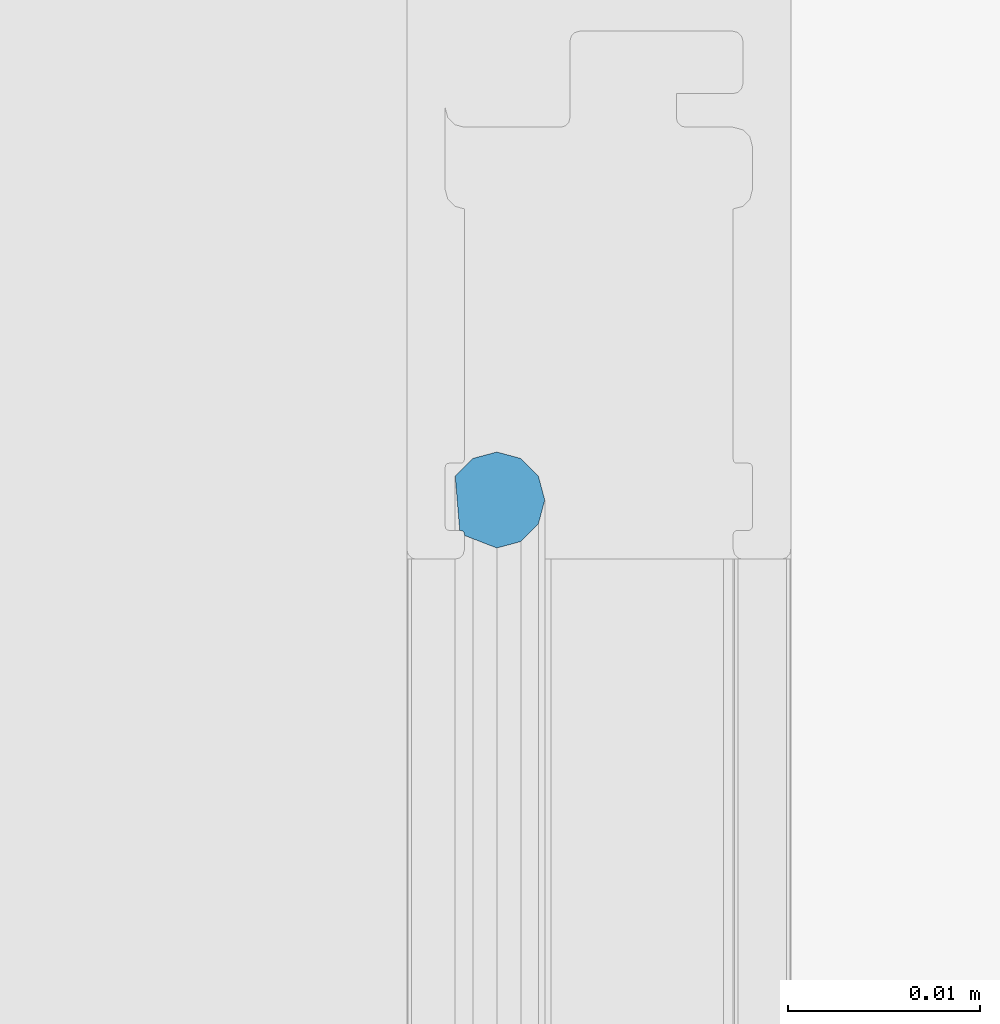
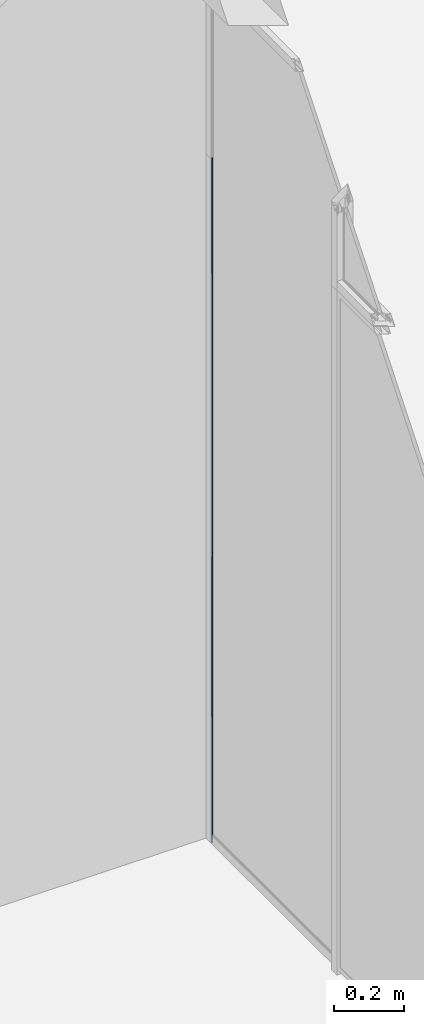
# One storey, part 95 of 387: 1 building element part, 2 elements without a shape of their own.
"""IFC2X3 building model written with IfcOpenShell, lengths in millimetres."""

from ifc_helpers import new_model, entity, si_unit, converted_unit, derived_unit, money_unit, direction, frame, origin_with_axes, place, context, subcontext, project, spatial, faceted_brep, source, transform, mapped, material, type_object, element, aggregate, save


model = new_model("IFC2X3")

# Units and contexts
model_context = context("Model", 3, precision=0.01, world=origin_with_axes(), true_north=direction((0.0, 1.0)))
body_context = subcontext(model_context, "Body", "Model", "MODEL_VIEW")
ifc_project = project(units=[si_unit("LENGTHUNIT", "METRE", prefix="MILLI"), si_unit("AREAUNIT", "SQUARE_METRE"), si_unit("VOLUMEUNIT", "CUBIC_METRE"), converted_unit("PLANEANGLEUNIT", "DEGREE", entity("IfcPlaneAngleMeasure", 0.0174532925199), si_unit("PLANEANGLEUNIT", "RADIAN"), dimensions=[0, 0, 0, 0, 0, 0, 0]), si_unit("SOLIDANGLEUNIT", "STERADIAN"), money_unit("EUR"), converted_unit("TIMEUNIT", "Year", entity("IfcTimeMeasure", 31556926.0), si_unit("TIMEUNIT", "SECOND"), dimensions=[0, 0, 1, 0, 0, 0, 0]), si_unit("MASSUNIT", "GRAM", prefix="KILO"), si_unit("THERMODYNAMICTEMPERATUREUNIT", "DEGREE_CELSIUS"), si_unit("LUMINOUSINTENSITYUNIT", "LUMEN"), si_unit("ENERGYUNIT", "JOULE", prefix="MEGA"), derived_unit("THERMALCONDUCTANCEUNIT", [(si_unit("POWERUNIT", "WATT"), 1), (si_unit("LENGTHUNIT", "METRE"), -1), (si_unit("THERMODYNAMICTEMPERATUREUNIT", "KELVIN"), -1)]), derived_unit("SPECIFICHEATCAPACITYUNIT", [(si_unit("ENERGYUNIT", "JOULE"), 1), (si_unit("MASSUNIT", "GRAM", prefix="KILO"), -1), (si_unit("THERMODYNAMICTEMPERATUREUNIT", "KELVIN"), -1)]), derived_unit("MASSDENSITYUNIT", [(si_unit("MASSUNIT", "GRAM", prefix="KILO"), 1), (si_unit("VOLUMEUNIT", "CUBIC_METRE"), -1)])], contexts=[model_context])

# Site, building, storey
site_placement = place(None, origin_with_axes())
site = spatial("IfcSite", under=ifc_project, at=site_placement, Name="Puškini 31, Narva", CompositionType="ELEMENT")
building_placement = place(site_placement, origin_with_axes())
building = spatial("IfcBuilding", under=site, at=building_placement, Name="Narva Riigigümnaasium", CompositionType="ELEMENT")
storey_placement = place(building_placement, frame((0.0, 0.0, 2640.0), z_axis=(0.0, 0.0, 1.0), x_axis=(1.0, 0.0, 0.0)))
storey = spatial("IfcBuildingStorey", under=building, at=storey_placement, Name="2.korrus +2.64", CompositionType="ELEMENT", Elevation=2640.0)

# Curtain wall, member, building element part
curtain_wall_type = type_object("IfcCurtainWallType", Name="Curtain Wall Type", PredefinedType="NOTDEFINED")
curtain_wall_placement = place(storey_placement, frame((28390.0000001, 183059.973479, -0.000112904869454), z_axis=(0.0, 0.0, 1.0), x_axis=(1.0, 0.0, 0.0)))
curtain_wall = element("IfcCurtainWall", 1, at=curtain_wall_placement, inside=storey, type_object=curtain_wall_type, Name="G-SKLF-19")
member_type = type_object("IfcMemberType", Name="30 x 10", PredefinedType="MULLION")
member_placement = place(curtain_wall_placement, frame((0.0, 1200.0, 0.0), z_axis=(0.0, 0.0, 1.0), x_axis=(0.0, 1.0, 0.0)))
member = element("IfcMember", 2, at=member_placement, type_object=member_type, Name="G-SKLF-54-raam", ObjectType="MULLION")
aggregate(curtain_wall, [member])
ifc_material = material(Name="Membraan - Veekindel")
shared_shape = source(origin_with_axes(), body_context, "Body", "Brep", [
    faceted_brep([(-28.5, 7.24760028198, 0.0), (-28.5, 7.24760028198, 2400.00000477), (-25.6641727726, 7.48000965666, 2400.00000477), (-25.6641727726, 7.48000965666, 0.0), (-28.5, 7.19999999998, 0.0), (-28.5, 7.19999999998, 2400.00000477), (-28.5267949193, 7.09999999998, 2400.00000477), (-28.6, 7.02679491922, 2400.00000477), (-28.7, 6.99999999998, 2400.00000477), (-28.7609519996, 6.99999999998, 2400.00000477), (-29.4141727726, 5.31494614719, 2400.00000477), (-29.079236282, 4.06494614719, 2400.00000477), (-28.1641727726, 3.14988263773, 2400.00000477), (-26.9141727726, 2.81494614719, 2400.00000477), (-25.6641727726, 3.14988263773, 2400.00000477), (-24.7491092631, 4.06494614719, 2400.00000477), (-24.4141727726, 5.31494614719, 2400.00000477), (-24.7491092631, 6.56494614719, 2400.00000477), (-24.7491092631, 6.56494614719, 0.0), (-24.4141727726, 5.31494614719, 0.0), (-24.7491092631, 4.06494614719, 0.0), (-25.6641727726, 3.14988263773, 0.0), (-26.9141727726, 2.81494614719, 0.0), (-28.1641727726, 3.14988263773, 0.0), (-29.079236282, 4.06494614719, 0.0), (-29.4141727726, 5.31494614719, 0.0), (-28.7609519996, 6.99999999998, 0.0), (-28.7, 6.99999999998, 0.0), (-28.6, 7.02679491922, 0.0), (-28.5267949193, 7.09999999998, 0.0)], [[[0, 1, 2, 3]], [[4, 5, 1, 0]], [[1, 5, 6, 7, 8, 9, 10, 11, 12, 13, 14, 15, 16, 17, 2]], [[3, 2, 17, 18]], [[0, 3, 18, 19, 20, 21, 22, 23, 24, 25, 26, 27, 28, 29, 4]], [[29, 6, 5, 4]], [[28, 7, 6, 29]], [[27, 8, 7, 28]], [[26, 9, 8, 27]], [[25, 10, 9, 26]], [[24, 11, 10, 25]], [[23, 12, 11, 24]], [[22, 13, 12, 23]], [[21, 14, 13, 22]], [[20, 15, 14, 21]], [[19, 16, 15, 20]], [[18, 17, 16, 19]]]),
])
building_element_part_placement = place(member_placement, origin_with_axes())
building_element_part = element("IfcBuildingElementPart", 3, at=building_element_part_placement, material=ifc_material, Name="Membraan - Veekindel", context=body_context, shape_type="MappedRepresentation", body=[
    mapped(shared_shape, transform((0.0, 0.0, 0.0))),
])
aggregate(member, [building_element_part])

save(model, "model.ifc")
